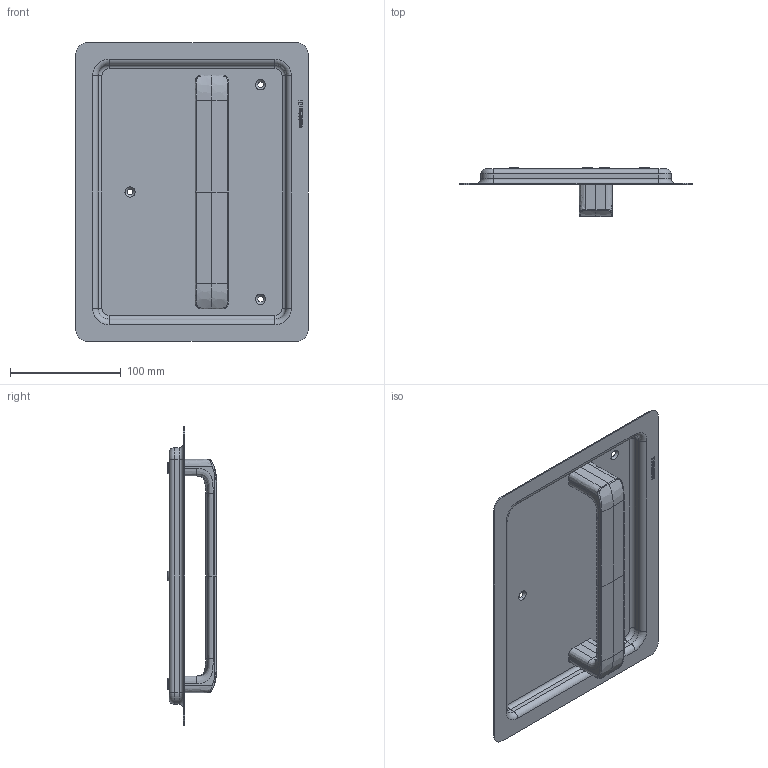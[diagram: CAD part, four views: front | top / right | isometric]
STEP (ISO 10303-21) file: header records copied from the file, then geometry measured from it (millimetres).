
FILE_DESCRIPTION(/* description */ (''),/* implementation_level */ '2;1');
FILE_NAME(/* name */ 'C:\ADSK_DMS_WS\Designs\Vorschläge\Loc Schalen\Heusser Muschel\Heusser-Muschel mit D6\S6.13.D6.0L..stp',/* time_stamp */ '2025-04-10T14:15:13+02:00',/* author */ ('gm'),/* organization */ (''),/* preprocessor_version */ 'ST-DEVELOPER v17.2',/* originating_system */ 'Autodesk Inventor 2019',/* authorisation */ '');
FILE_SCHEMA (('AUTOMOTIVE_DESIGN { 1 0 10303 214 3 1 1 }'));
Length unit declared in the file: millimetre
Products named in the file (4): S6.13.D6.0L.; Schale S6.13.R.D6ipt; D6; M5x10 zu D6
Assembly tree (6 placements, depth 2):
  S6.13.D6.0L.
    Schale S6.13.R.D6ipt
    D6
    M5x10 zu D6  x4
Bounding box: 210 x 44.5 x 270 mm (x, y, z)
Volume: 145914.4 mm3; surface area: 151282.1 mm2
Topology: 6 solids, 6 shells, 385 faces, 986 edges, 632 vertices
Faces by surface type: plane 125, bspline 98, cylinder 92, cone 50, torus 20
Full cylindrical faces by diameter (mm): 4.134 x4, 5 x4, 5.5 x4, 9 x4
Entity records: 13490 total; most frequent: CARTESIAN_POINT 6446, ORIENTED_EDGE 1548, DIRECTION 1161, EDGE_CURVE 774, VERTEX_POINT 497, LINE 417, VECTOR 417, AXIS2_PLACEMENT_3D 372
